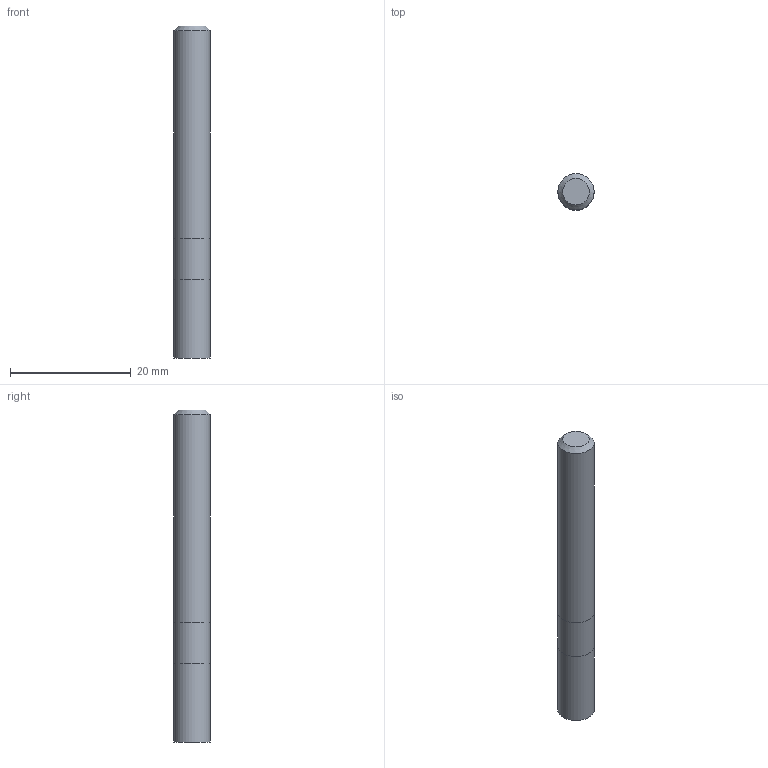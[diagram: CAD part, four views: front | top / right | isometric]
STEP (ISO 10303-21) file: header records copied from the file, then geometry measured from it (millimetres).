
FILE_DESCRIPTION((''),'2;1');
FILE_NAME('C:\Users\nsx150\AppData\Local\Temp\Mastercam 2021\98T1Q6BTT1\TEMP.step','2021-10-21T14:49:02',(''),(''),'STEP Write','Mastercam 2021 ... CNC Software, Inc.','');
FILE_SCHEMA(('AUTOMOTIVE_DESIGN'));
Length unit declared in the file: millimetre
Products named in the file (1): None
Bounding box: 6 x 6 x 55 mm (x, y, z)
Volume: 1549.6 mm3; surface area: 1140.2 mm2
Topology: 2 solids, 2 shells, 8 faces, 10 edges, 6 vertices
Faces by surface type: plane 4, cylinder 3, cone 1
Full cylindrical faces by diameter (mm): 6 x3
Entity records: 190 total; most frequent: DIRECTION 32, CARTESIAN_POINT 22, AXIS2_PLACEMENT_3D 16, ORIENTED_EDGE 12, EDGE_LOOP 12, STYLED_ITEM 11, ADVANCED_FACE 8, FACE_BOUND 7
